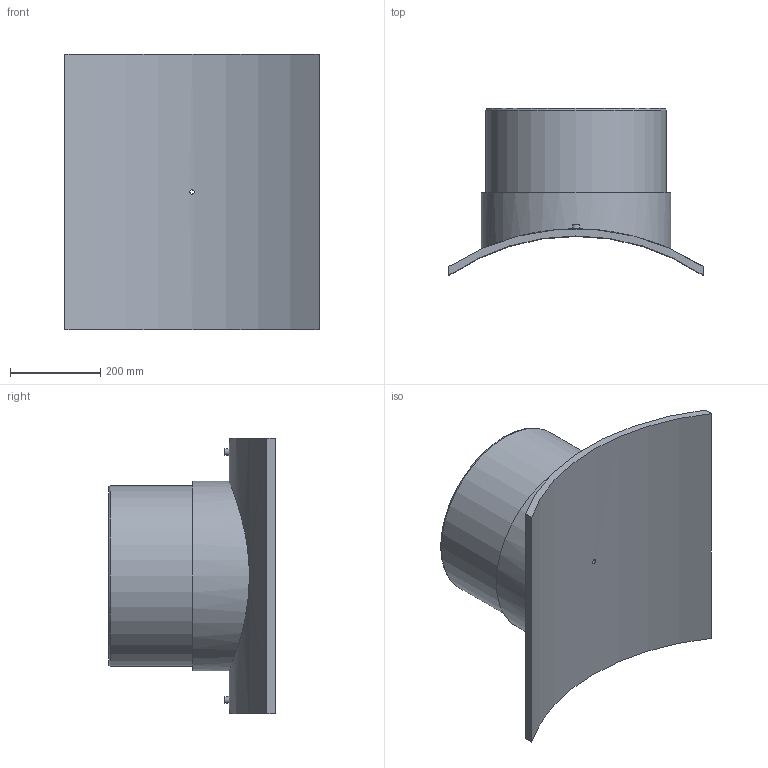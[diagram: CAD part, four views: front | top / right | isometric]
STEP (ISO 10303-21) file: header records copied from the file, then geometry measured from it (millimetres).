
FILE_DESCRIPTION(/* description */ ('PLASSON BRANCH SADDLE 1000x400'),/* implementation_level */ '2;1');
FILE_NAME(/* name */ 'C:\Dropbox\KIMPROJECTS-Inventor 2019\99-16-3568-Processing\ElectroFusion Fittings\495803\stp\4958031000400T.stp',/* time_stamp */ '2024-04-04T11:48:00+02:00',/* author */ ('KIM'),/* organization */ (''),/* preprocessor_version */ 'ST-DEVELOPER v17.2',/* originating_system */ 'Autodesk Inventor 2019',/* authorisation */ '');
FILE_SCHEMA (('AUTOMOTIVE_DESIGN { 1 0 10303 214 3 1 1 }'));
Length unit declared in the file: millimetre
Products named in the file (1): 4958031000400T
Bounding box: 563 x 369.77 x 610 mm (x, y, z)
Volume: 19947426.8 mm3; surface area: 1427538.5 mm2
Topology: 1 solids, 1 shells, 29 faces, 60 edges, 43 vertices
Faces by surface type: plane 13, cylinder 12, torus 2, cone 2
Full cylindrical faces by diameter (mm): 4 x2, 9.6 x1, 10 x2, 16 x1, 320 x1, 400 x1, 420 x1
Entity records: 1118 total; most frequent: CARTESIAN_POINT 432, DIRECTION 139, ORIENTED_EDGE 120, EDGE_CURVE 60, AXIS2_PLACEMENT_3D 60, VERTEX_POINT 43, EDGE_LOOP 41, CIRCLE 30
